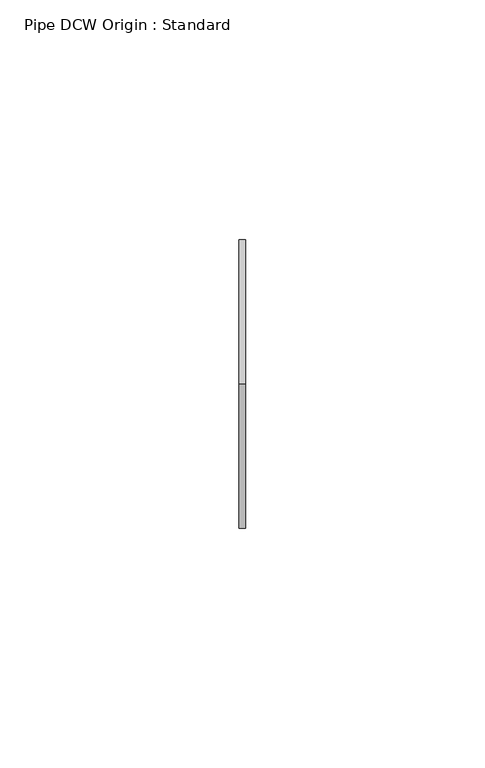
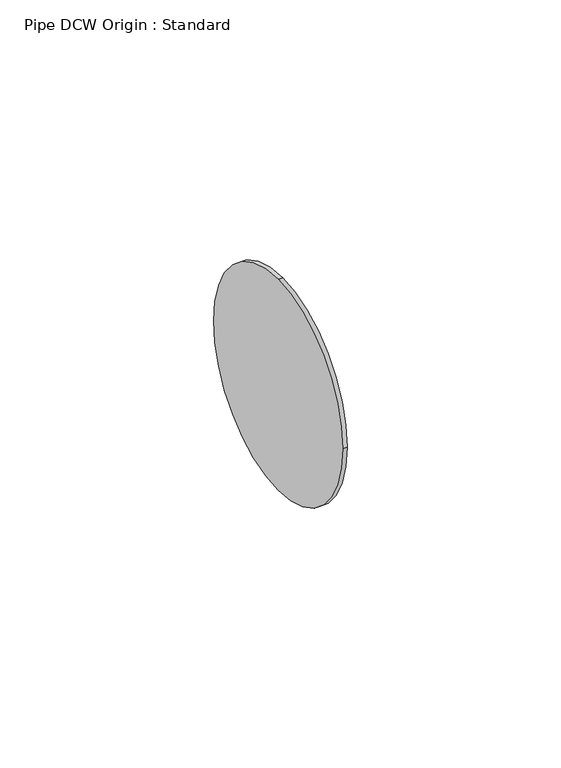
"""IFC4 building model written with IfcOpenShell, lengths in millimetres: proxy geometry, Pipe DCW Origin : Standard."""

import ifcopenshell
import ifcopenshell.guid

model = None  # the IFC model being written
_history = None  # IfcOwnerHistory: only IFC2X3 demands one
_inside = {}  # id of a spatial element -> (the spatial element, [elements in it])
_under = {}  # id of a project, library or spatial element -> (it, [spatial elements below it])
_declared = {}  # id of a project -> (the project, [libraries it declares])
_typed = {}  # id of a type object -> (the type object, [elements of that type])
_made_of = {}  # id of a material, layer set ... -> (it, [elements and type objects made of it])


def new_model(schema):
    """Start an empty IFC model of exactly this schema.

    Asked for "IFC4X3", IfcOpenShell would pick the latest addendum, in which some entities
    have other attributes; the version numbers below select the first issue.
    IFC2X3 requires an IfcOwnerHistory on every rooted entity: one is made here for all.
    """
    global model, _history
    if schema == "IFC4X3":
        model = ifcopenshell.file(schema_version=(4, 3, 0, 0))
    else:
        model = ifcopenshell.file(schema=schema)
    _inside.clear()
    _under.clear()
    _declared.clear()
    _typed.clear()
    _made_of.clear()
    _history = None
    if model.schema == "IFC2X3":
        org = make("IfcOrganization", Name="unknown")
        user = make(
            "IfcPersonAndOrganization",
            ThePerson=make("IfcPerson", FamilyName="unknown"),
            TheOrganization=org,
        )
        app = make(
            "IfcApplication",
            ApplicationDeveloper=org,
            Version="unknown",
            ApplicationFullName="unknown",
            ApplicationIdentifier="unknown",
        )
        _history = make(
            "IfcOwnerHistory",
            OwningUser=user,
            OwningApplication=app,
            ChangeAction="ADDED",
            CreationDate=0,
        )
    return model


def make(cls, **values):
    """One entity of the class cls with the attributes given. An attribute that is None is left unset."""
    return model.create_entity(
        cls, **{name: value for name, value in values.items() if value is not None}
    )


def rooted(cls, **values):
    """An entity with a GlobalId (a new one), such as an element, a storey or a relation."""
    return make(cls, GlobalId=ifcopenshell.guid.new(), OwnerHistory=_history, **values)


def si_unit(unit_type, name, prefix=None):
    """IfcSIUnit, for example si_unit("LENGTHUNIT", "METRE", prefix="MILLI")."""
    return make("IfcSIUnit", UnitType=unit_type, Prefix=prefix, Name=name)


def assignment(units):
    """IfcUnitAssignment: the units of a project."""
    return None if units is None else make("IfcUnitAssignment", Units=units)


def point(xyz):
    """IfcCartesianPoint."""
    return None if xyz is None else make("IfcCartesianPoint", Coordinates=xyz)


def direction(xyz):
    """IfcDirection."""
    return None if xyz is None else make("IfcDirection", DirectionRatios=xyz)


def frame(location, z_axis=None, x_axis=None):
    """IfcAxis2Placement3D, a coordinate frame: its origin and axes. An axis left out is left unset."""
    return make(
        "IfcAxis2Placement3D",
        Location=point(location),
        Axis=direction(z_axis),
        RefDirection=direction(x_axis),
    )


def frame_2d(location, x_axis=None):
    """IfcAxis2Placement2D, a coordinate frame in the plane: its origin and x axis."""
    return make(
        "IfcAxis2Placement2D", Location=point(location), RefDirection=direction(x_axis)
    )


def origin():
    """The frame at (0, 0, 0) with its axes left unset."""
    return frame((0.0, 0.0, 0.0))


def origin_2d():
    """The frame at (0, 0) in the plane with its x axis left unset."""
    return frame_2d((0.0, 0.0))


def place(relative_to, where):
    """IfcLocalPlacement: puts the frame where relative to a parent placement (None: the world)."""
    return make(
        "IfcLocalPlacement", PlacementRelTo=relative_to, RelativePlacement=where
    )


def context(
    kind, dimensions, precision=None, world=None, true_north=None, identifier=None
):
    """IfcGeometricRepresentationContext, for example the 3D "Model" context."""
    return make(
        "IfcGeometricRepresentationContext",
        ContextIdentifier=identifier,
        ContextType=kind,
        CoordinateSpaceDimension=dimensions,
        Precision=precision,
        WorldCoordinateSystem=world,
        TrueNorth=true_north,
    )


def project(units=None, contexts=None):
    """IfcProject with its units and contexts."""
    return rooted(
        "IfcProject",
        Name="project",
        RepresentationContexts=contexts,
        UnitsInContext=assignment(units),
    )


def spatial(cls, under=None, at=None, **own):
    """A site, building, storey or space (cls), placed at a placement, below another one or the project."""
    s = rooted(cls, ObjectPlacement=at, **own)
    if under is not None:
        _under.setdefault(under.id(), (under, []))[1].append(s)
    return s


def circle_curve(where, radius):
    """IfcCircle in the frame where."""
    return make("IfcCircle", Position=where, Radius=radius)


def trimmed(basis, trim1, trim2, sense, master):
    """IfcTrimmedCurve: the piece of a basis curve between two trims."""
    return make(
        "IfcTrimmedCurve",
        BasisCurve=basis,
        Trim1=trim1,
        Trim2=trim2,
        SenseAgreement=sense,
        MasterRepresentation=master,
    )


def segment(curve, same_sense, transition):
    """IfcCompositeCurveSegment."""
    return make(
        "IfcCompositeCurveSegment",
        Transition=transition,
        SameSense=same_sense,
        ParentCurve=curve,
    )


def composite_curve(segments, self_intersect=None):
    """IfcCompositeCurve: segments joined end to end."""
    return make("IfcCompositeCurve", Segments=segments, SelfIntersect=self_intersect)


def outline(outer, holes=None, kind="AREA"):
    """IfcArbitraryClosedProfileDef: a profile drawn as a closed curve; with holes, ...WithVoids."""
    if holes is None:
        return make("IfcArbitraryClosedProfileDef", ProfileType=kind, OuterCurve=outer)
    return make(
        "IfcArbitraryProfileDefWithVoids",
        ProfileType=kind,
        OuterCurve=outer,
        InnerCurves=holes,
    )


def extrude(swept, where, along, depth):
    """IfcExtrudedAreaSolid: the profile swept, set in the frame where, extruded along a direction by depth."""
    return make(
        "IfcExtrudedAreaSolid",
        SweptArea=swept,
        Position=where,
        ExtrudedDirection=direction(along),
        Depth=depth,
    )


def shape(context_of_items, identifier, shape_type, items):
    """IfcShapeRepresentation: the items that make up one representation, for example the "Body"."""
    return make(
        "IfcShapeRepresentation",
        ContextOfItems=context_of_items,
        RepresentationIdentifier=identifier,
        RepresentationType=shape_type,
        Items=items,
    )


def source(mapping_origin, context_of_items, identifier, shape_type, items):
    """IfcRepresentationMap: a shape defined once, which mapped items show again and again."""
    return make(
        "IfcRepresentationMap",
        MappingOrigin=mapping_origin,
        MappedRepresentation=shape(context_of_items, identifier, shape_type, items),
    )


def transform(
    local_origin,
    x_axis=None,
    y_axis=None,
    z_axis=None,
    scale=None,
    scale2=None,
    scale3=None,
    uniform=True,
):
    """IfcCartesianTransformationOperator3D, or its non-uniform kind. x_axis, y_axis, z_axis: its Axis1, 2, 3."""
    if uniform:
        return make(
            "IfcCartesianTransformationOperator3D",
            Axis1=direction(x_axis),
            Axis2=direction(y_axis),
            LocalOrigin=point(local_origin),
            Scale=scale,
            Axis3=direction(z_axis),
        )
    return make(
        "IfcCartesianTransformationOperator3DnonUniform",
        Axis1=direction(x_axis),
        Axis2=direction(y_axis),
        LocalOrigin=point(local_origin),
        Scale=scale,
        Axis3=direction(z_axis),
        Scale2=scale2,
        Scale3=scale3,
    )


def mapped(mapping_source, mapping_target):
    """IfcMappedItem: shows the shape of a source again, moved by a transform."""
    return make(
        "IfcMappedItem", MappingSource=mapping_source, MappingTarget=mapping_target
    )


def made_of(thing, what):
    """Note that an element or type object is made of a material, layer set ...; save() writes the relation."""
    if what is not None:
        _made_of.setdefault(what.id(), (what, []))[1].append(thing)
    return thing


def element(
    cls,
    number,
    at=None,
    inside=None,
    cuts=None,
    type_object=None,
    material=None,
    context=None,
    identifier="Body",
    shape_type=None,
    held_by="IfcProductDefinitionShape",
    body=None,
    shapes=None,
    **own,
):
    """One element of the class cls, such as IfcWall. Its Tag is "e" and its number.

    at: its placement. inside: the storey or other place that contains it. cuts: it is an
    opening in that element (IfcRelVoidsElement). A single representation is given by context,
    identifier, shape_type and body (its items); several are given by shapes. held_by: the class
    of the entity that holds the representations. save() writes the other relations.
    """
    e = rooted(cls, Tag="e%d" % number, ObjectPlacement=at, **own)
    if body is not None:
        shapes = [shape(context, identifier, shape_type, body)]
    if shapes is not None:
        e.Representation = make(held_by, Representations=shapes)
    if inside is not None:
        _inside.setdefault(inside.id(), (inside, []))[1].append(e)
    if cuts is not None:
        rooted(
            "IfcRelVoidsElement", RelatingBuildingElement=cuts, RelatedOpeningElement=e
        )
    if type_object is not None:
        _typed.setdefault(type_object.id(), (type_object, []))[1].append(e)
    return made_of(e, material)


def aggregate(whole, parts):
    """IfcRelAggregates: a whole, such as a stair, and the parts it consists of."""
    return rooted("IfcRelAggregates", RelatingObject=whole, RelatedObjects=parts)


def save(model, path):
    """Write the relations noted so far, then the file.

    IfcRelAggregates (storeys below a building ...), IfcRelContainedInSpatialStructure (elements
    in a storey), IfcRelDefinesByType, IfcRelAssociatesMaterial and IfcRelDeclares: one each for
    every whole, place, type object, material and project.
    """
    for whole, parts in _under.values():
        aggregate(whole, parts)
    for where, things in _inside.values():
        rooted(
            "IfcRelContainedInSpatialStructure",
            RelatedElements=things,
            RelatingStructure=where,
        )
    for kind, things in _typed.values():
        rooted("IfcRelDefinesByType", RelatedObjects=things, RelatingType=kind)
    for what, things in _made_of.values():
        rooted("IfcRelAssociatesMaterial", RelatedObjects=things, RelatingMaterial=what)
    for by, libraries in _declared.values():
        rooted("IfcRelDeclares", RelatingContext=by, RelatedDefinitions=libraries)
    model.write(path)


def pipe_dcw_origin_standard_a8ebccfd(model_context):
    return source(origin(), model_context, "Body", "SweptSolid", [
        extrude(outline(composite_curve([segment(trimmed(circle_curve(origin_2d(), 30.1625), [point((0.0, 30.1625))], [point((30.1625, 0.0))], False, "CARTESIAN"), True, "CONTINUOUS"), segment(trimmed(circle_curve(origin_2d(), 30.1625), [point((30.1625, 0.0))], [point((0.0, -30.1625))], False, "CARTESIAN"), True, "CONTINUOUS"), segment(trimmed(circle_curve(origin_2d(), 30.1625), [point((0.0, -30.1625))], [point((-30.1625, 0.0))], False, "CARTESIAN"), True, "CONTINUOUS"), segment(trimmed(circle_curve(origin_2d(), 30.1625), [point((-30.1625, 0.0))], [point((0.0, 30.1625))], False, "CARTESIAN"), True, "CONTINUOUS")], self_intersect=False)), frame((0.0, 0.0, 0.0), z_axis=(1.0, 0.0, 0.0), x_axis=(0.0, 1.0, 0.0)), (0.0, 0.0, 1.0), 1.27),
        extrude(outline(composite_curve([segment(trimmed(circle_curve(origin_2d(), 30.1625), [point((0.0, 30.1625))], [point((30.1625, 0.0))], False, "CARTESIAN"), True, "CONTINUOUS"), segment(trimmed(circle_curve(origin_2d(), 30.1625), [point((30.1625, 0.0))], [point((0.0, -30.1625))], False, "CARTESIAN"), True, "CONTINUOUS"), segment(trimmed(circle_curve(origin_2d(), 30.1625), [point((0.0, -30.1625))], [point((-30.1625, 0.0))], False, "CARTESIAN"), True, "CONTINUOUS"), segment(trimmed(circle_curve(origin_2d(), 30.1625), [point((-30.1625, 0.0))], [point((0.0, 30.1625))], False, "CARTESIAN"), True, "CONTINUOUS")], self_intersect=False)), frame((0.0, 0.0, 0.0), z_axis=(1.0, 0.0, 0.0), x_axis=(0.0, 1.0, 0.0)), (0.0, 0.0, 1.0), 1.27),
    ])


if __name__ == "__main__":
    model = new_model("IFC4")
    model_context = context("Model", 3, world=origin())
    ifc_project = project(units=[si_unit("LENGTHUNIT", "METRE", prefix="MILLI")], contexts=[model_context])
    site = spatial("IfcSite", under=ifc_project)
    building = spatial("IfcBuilding", under=site)
    placement = place(None, origin())
    pipe_dcw_origin_standard_shape = pipe_dcw_origin_standard_a8ebccfd(model_context)
    element("IfcBuildingElementProxy", 1, Name="Pipe DCW Origin : Standard", ObjectType="Pipe DCW Origin : Standard", at=placement, inside=building, context=model_context, shape_type="MappedRepresentation", body=[
        mapped(pipe_dcw_origin_standard_shape, transform((0.0, 0.0, 0.0), x_axis=(1.0, 0.0, 0.0), y_axis=(0.0, 1.0, 0.0), z_axis=(0.0, 0.0, 1.0))),
    ])
    save(model, "model.ifc")
